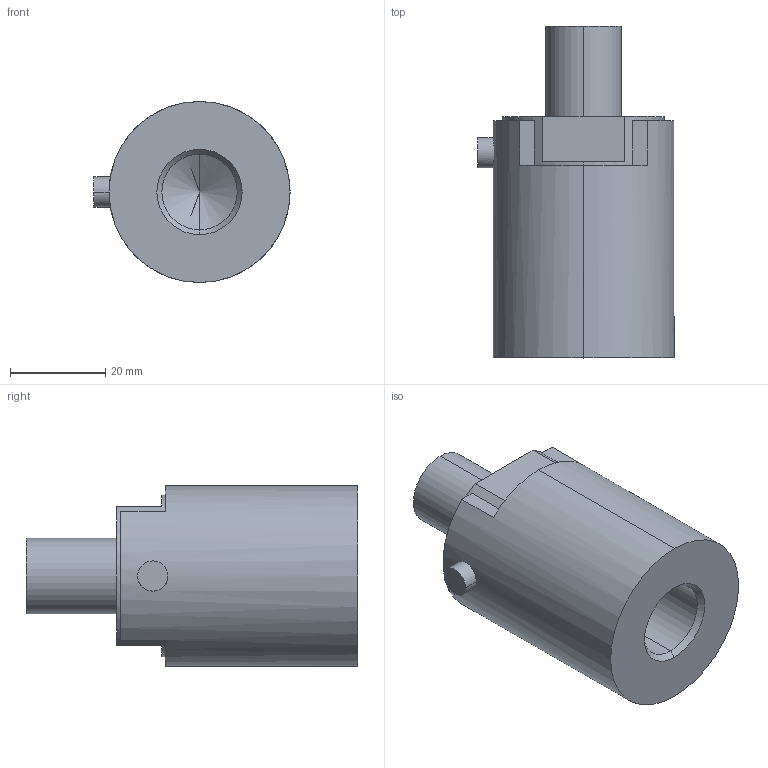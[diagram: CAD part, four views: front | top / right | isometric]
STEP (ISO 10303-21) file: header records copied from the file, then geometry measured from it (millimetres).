
FILE_DESCRIPTION (( 'STEP AP214' ), '1' );
FILE_NAME ('SS1122-10KLB.STEP', '2024-08-27T13:37:15', ( '' ), ( '' ), 'SwSTEP 2.0', 'SolidWorks 2008', '' );
FILE_SCHEMA (( 'AUTOMOTIVE_DESIGN' ));
Length unit declared in the file: inch
Products named in the file (1): SS1122-10KLB
Bounding box: 41.27 x 69.82 x 38.1 mm (x, y, z)
Volume: 55924 mm3; surface area: 10272.7 mm2
Topology: 1 solids, 1 shells, 30 faces, 74 edges, 47 vertices
Faces by surface type: plane 16, cylinder 10, cone 4
Entity records: 973 total; most frequent: CARTESIAN_POINT 216, DIRECTION 164, ORIENTED_EDGE 144, EDGE_CURVE 72, AXIS2_PLACEMENT_3D 63, VERTEX_POINT 47, LINE 38, VECTOR 38
